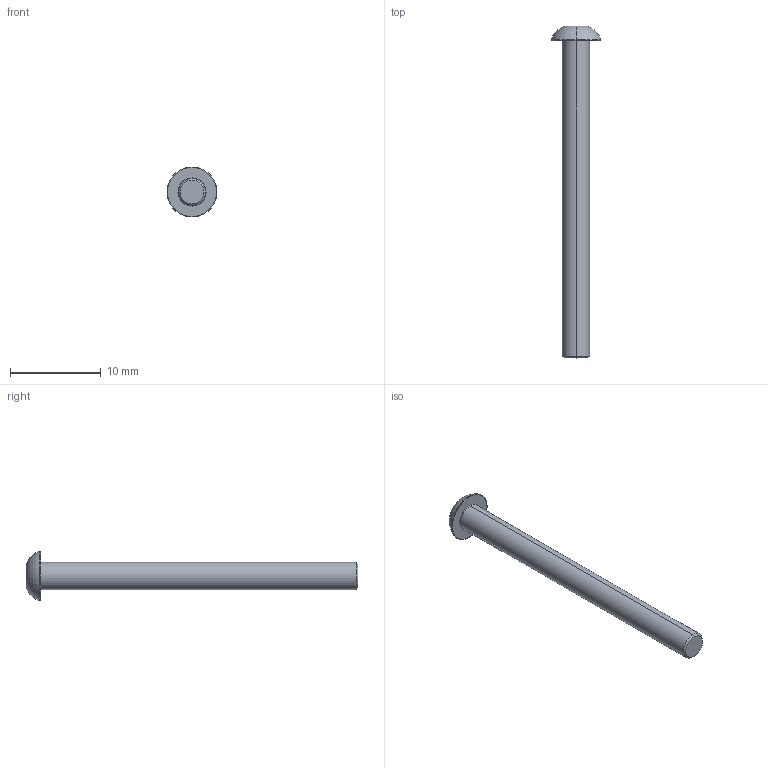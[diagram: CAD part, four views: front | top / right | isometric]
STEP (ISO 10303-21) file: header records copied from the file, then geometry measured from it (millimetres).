
FILE_DESCRIPTION (( 'STEP AP203' ), '1' );
FILE_NAME ('LGDD-304-M3x35.STEP', '2026-08-08T02:34:19', ( '' ), ( '' ), 'SwSTEP 2.0', 'SolidWorks 2020', '' );
FILE_SCHEMA (( 'CONFIG_CONTROL_DESIGN' ));
Length unit declared in the file: millimetre
Products named in the file (1): LGDD-304-M3x35
Bounding box: 5.5 x 36.6 x 5.5 mm (x, y, z)
Volume: 268.8 mm3; surface area: 397 mm2
Topology: 1 solids, 1 shells, 31 faces, 59 edges, 32 vertices
Faces by surface type: plane 10, cone 9, torus 8, cylinder 4
Entity records: 876 total; most frequent: CARTESIAN_POINT 166, DIRECTION 149, ORIENTED_EDGE 118, AXIS2_PLACEMENT_3D 65, EDGE_CURVE 59, EDGE_LOOP 33, CIRCLE 33, VERTEX_POINT 32
